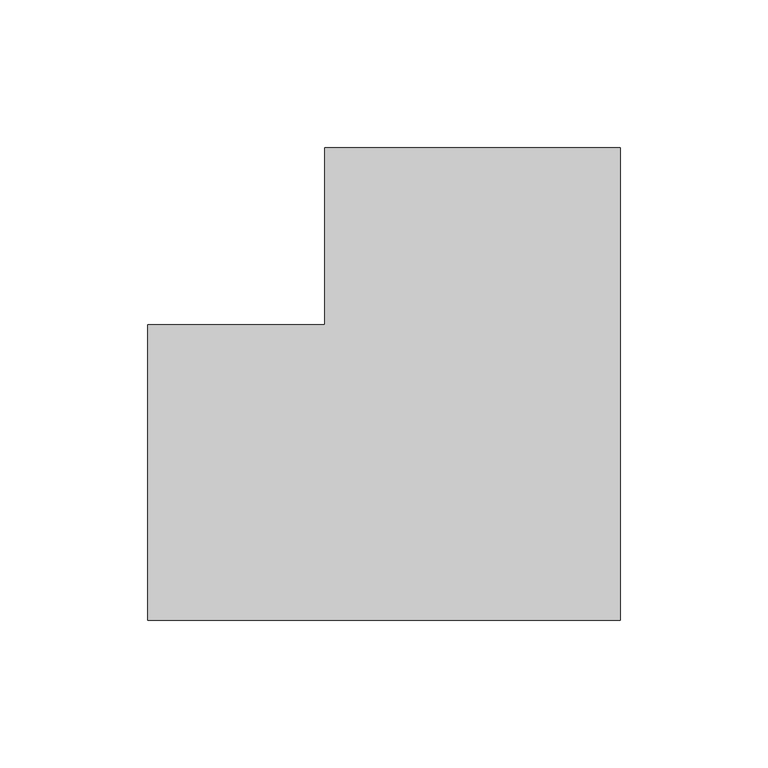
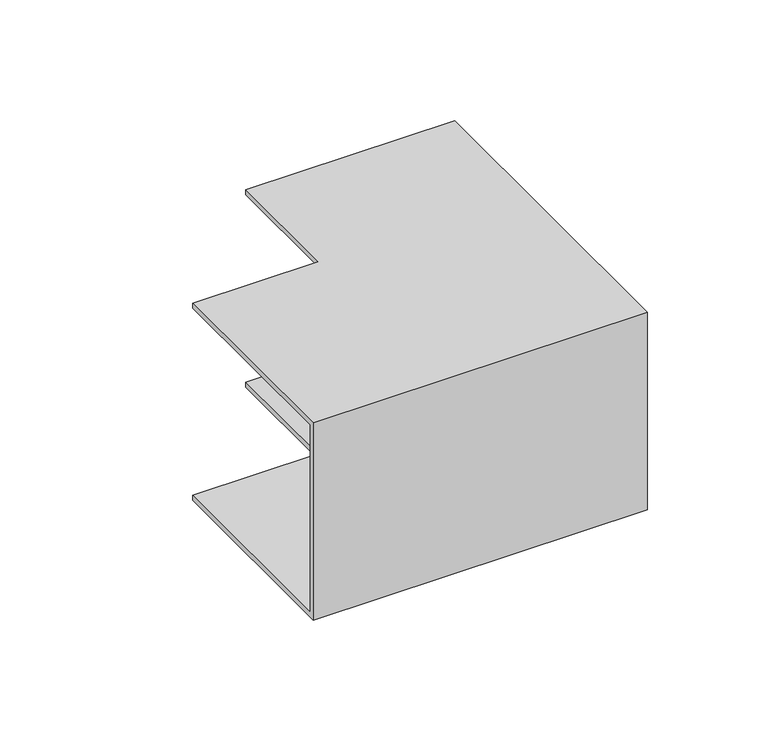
"""IFC4 building model written with IfcOpenShell, lengths in millimetres: cable carrier fitting geometry, ADSK_Поворот вертикальный внутренний_Минимальный размер : Перфорированный."""

from ifc_helpers import new_model, si_unit, origin, place, context, project, spatial, faceted_brep, source, transform, mapped, element, save


def cable_carrier_fitting_6eddc94f(model_context):
    return source(origin(), model_context, "Body", "Brep", [
        faceted_brep([(-110.0, -50.0, 50.0), (-110.0, 50.0, 50.0), (-110.0, 50.0, 47.46), (-110.0, -47.46, 47.46), (-110.0, -47.46, -47.46), (-110.0, 50.0, -47.46), (-110.0, 50.0, -50.0), (-110.0, -50.0, -50.0), (50.0, 110.0, 50.0), (50.0, 110.0, -50.0), (-50.0, 110.0, -50.0), (-50.0, 110.0, -47.46), (47.46, 110.0, -47.46), (47.46, 110.0, 47.46), (-50.0, 110.0, 47.46), (-50.0, 110.0, 50.0), (50.0, -50.0, 50.0), (-50.0, 50.0, 50.0), (-50.0, 50.0, 47.46), (47.46, -47.46, 47.46), (47.46, -47.46, -47.46), (-50.0, 50.0, -47.46), (-50.0, 50.0, -50.0), (50.0, -50.0, -50.0)], [[[0, 1, 2, 3, 4, 5, 6, 7]], [[8, 9, 10, 11, 12, 13, 14, 15]], [[1, 0, 16, 8, 15, 17]], [[2, 1, 17, 18]], [[3, 2, 18, 14, 13, 19]], [[4, 3, 19, 20]], [[5, 4, 20, 12, 11, 21]], [[6, 5, 21, 22]], [[7, 6, 22, 10, 9, 23]], [[0, 7, 23, 16]], [[18, 17, 15, 14]], [[20, 19, 13, 12]], [[22, 21, 11, 10]], [[16, 23, 9, 8]]]),
    ])


if __name__ == "__main__":
    model = new_model("IFC4")
    model_context = context("Model", 3, world=origin())
    ifc_project = project(units=[si_unit("LENGTHUNIT", "METRE", prefix="MILLI")], contexts=[model_context])
    site = spatial("IfcSite", under=ifc_project)
    building = spatial("IfcBuilding", under=site)
    placement = place(None, origin())
    cable_carrier_fitting_shape = cable_carrier_fitting_6eddc94f(model_context)
    element("IfcCableCarrierFitting", 1, ObjectType="ADSK_Поворот вертикальный внутренний_Минимальный размер : Перфорированный", at=placement, inside=building, context=model_context, shape_type="MappedRepresentation", body=[
        mapped(cable_carrier_fitting_shape, transform((0.0, 0.0, 0.0), x_axis=(1.0, 0.0, 0.0), y_axis=(0.0, 1.0, 0.0), z_axis=(0.0, 0.0, 1.0))),
    ])
    save(model, "model.ifc")
